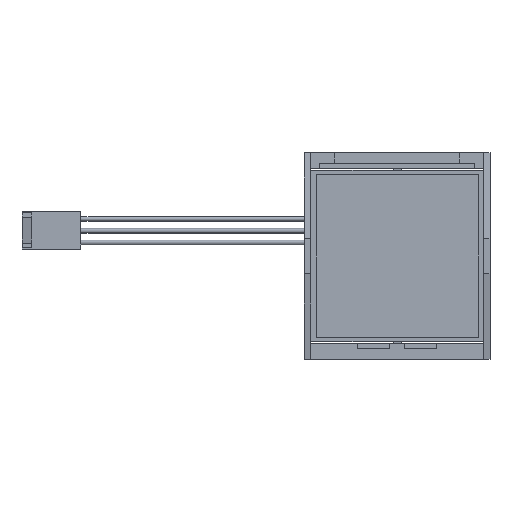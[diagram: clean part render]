
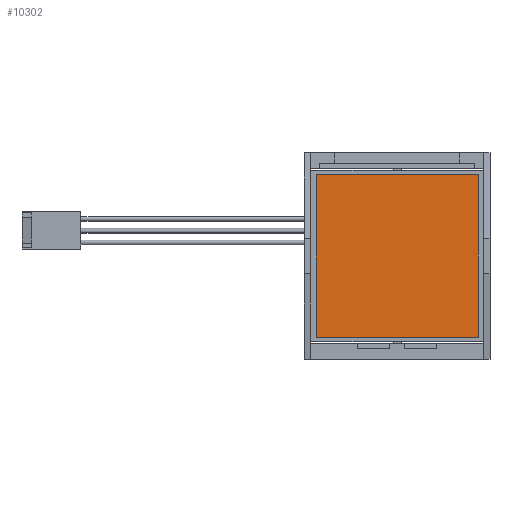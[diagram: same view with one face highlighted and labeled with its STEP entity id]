
A CAD part, front view. The second image highlights one B-rep face of the part: STEP entity #10302.
In plain terms, the highlighted planar face has unit normal (0, -1, 0).
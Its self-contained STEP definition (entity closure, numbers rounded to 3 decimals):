
#239 = FACE_OUTER_BOUND ( 'NONE', #8642, .T. ) ;
#1247 = ORIENTED_EDGE ( 'NONE', *, *, #32868, .F. ) ;
#1297 = DIRECTION ( 'NONE',  ( 0., 0., 1. ) ) ;
#2210 = VECTOR ( 'NONE', #46606, 1000. ) ;
#3146 = EDGE_CURVE ( 'NONE', #46885, #60333, #35101, .T. ) ;
#5439 = ORIENTED_EDGE ( 'NONE', *, *, #47578, .F. ) ;
#6620 = PLANE ( 'NONE',  #18881 ) ;
#7004 = CARTESIAN_POINT ( 'NONE',  ( -25.637, -25.999, 62.305 ) ) ;
#8600 = ORIENTED_EDGE ( 'NONE', *, *, #3146, .F. ) ;
#8642 = EDGE_LOOP ( 'NONE', ( #1247, #8600, #5439, #31315 ) ) ;
#10302 = ADVANCED_FACE ( 'NONE', ( #239 ), #6620, .F. ) ;
#10929 = VECTOR ( 'NONE', #55084, 1000. ) ;
#11951 = DIRECTION ( 'NONE',  ( 0., 1., 0. ) ) ;
#18881 = AXIS2_PLACEMENT_3D ( 'NONE', #66142, #11951, #1297 ) ;
#24488 = DIRECTION ( 'NONE',  ( -1., 0., 0. ) ) ;
#31256 = DIRECTION ( 'NONE',  ( 1., 0., 0. ) ) ;
#31315 = ORIENTED_EDGE ( 'NONE', *, *, #64170, .F. ) ;
#32735 = CARTESIAN_POINT ( 'NONE',  ( -25.637, -25.999, 62.305 ) ) ;
#32868 = EDGE_CURVE ( 'NONE', #60333, #44594, #39067, .T. ) ;
#33033 = CARTESIAN_POINT ( 'NONE',  ( -25.637, -25.999, 97.305 ) ) ;
#35088 = VECTOR ( 'NONE', #31256, 1000. ) ;
#35101 = LINE ( 'NONE', #57442, #41504 ) ;
#39067 = LINE ( 'NONE', #32735, #10929 ) ;
#41504 = VECTOR ( 'NONE', #24488, 1000. ) ;
#41829 = VERTEX_POINT ( 'NONE', #49781 ) ;
#43100 = CARTESIAN_POINT ( 'NONE',  ( 9.363, -25.999, 62.305 ) ) ;
#44594 = VERTEX_POINT ( 'NONE', #33033 ) ;
#46521 = LINE ( 'NONE', #57149, #35088 ) ;
#46606 = DIRECTION ( 'NONE',  ( 0., 0., -1. ) ) ;
#46885 = VERTEX_POINT ( 'NONE', #43100 ) ;
#47578 = EDGE_CURVE ( 'NONE', #41829, #46885, #48013, .T. ) ;
#48013 = LINE ( 'NONE', #58627, #2210 ) ;
#49781 = CARTESIAN_POINT ( 'NONE',  ( 9.363, -25.999, 97.305 ) ) ;
#55084 = DIRECTION ( 'NONE',  ( 0., 0., 1. ) ) ;
#57149 = CARTESIAN_POINT ( 'NONE',  ( -25.637, -25.999, 97.305 ) ) ;
#57442 = CARTESIAN_POINT ( 'NONE',  ( -25.637, -25.999, 62.305 ) ) ;
#58627 = CARTESIAN_POINT ( 'NONE',  ( 9.363, -25.999, 62.305 ) ) ;
#60333 = VERTEX_POINT ( 'NONE', #7004 ) ;
#64170 = EDGE_CURVE ( 'NONE', #44594, #41829, #46521, .T. ) ;
#66142 = CARTESIAN_POINT ( 'NONE',  ( -25.637, -25.999, 62.305 ) ) ;
